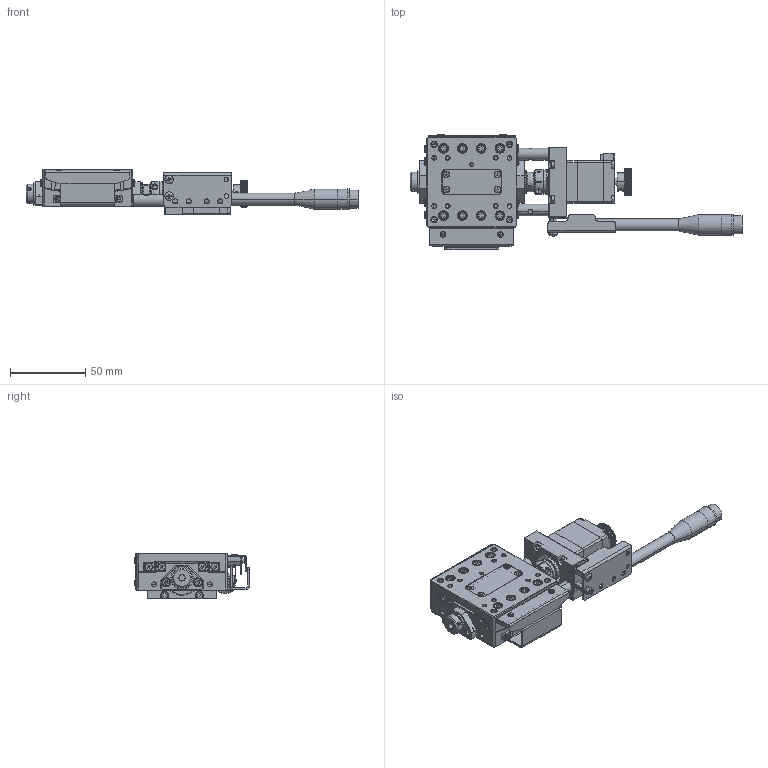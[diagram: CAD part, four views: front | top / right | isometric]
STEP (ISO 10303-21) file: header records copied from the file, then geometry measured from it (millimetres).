
FILE_DESCRIPTION (( 'STEP AP203' ), '1' );
FILE_NAME ('DGB60125-L1PC-R.STEP', '2021-08-21T08:52:51', ( '' ), ( '' ), 'SwSTEP 2.0', 'SolidWorks 2018', '' );
FILE_SCHEMA (( 'CONFIG_CONTROL_DESIGN' ));
Products named in the file (1): DGB60125-L1PC-R
Bounding box: 220.38 x 76.71 x 30.5 mm (x, y, z)
Volume: 127927.3 mm3; surface area: 69191.4 mm2
Topology: 24 solids, 133 shells, 4055 faces, 10126 edges, 6394 vertices
Faces by surface type: plane 2041, cylinder 1160, cone 380, bspline 218, torus 212, sphere 44
Entity records: 138306 total; most frequent: CARTESIAN_POINT 42763, ORIENTED_EDGE 19776, DIRECTION 19599, EDGE_CURVE 9888, AXIS2_PLACEMENT_3D 6966, VERTEX_POINT 6352, VECTOR 5667, LINE 5667
